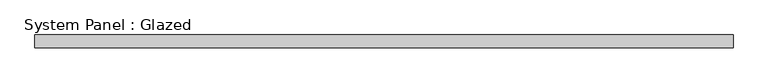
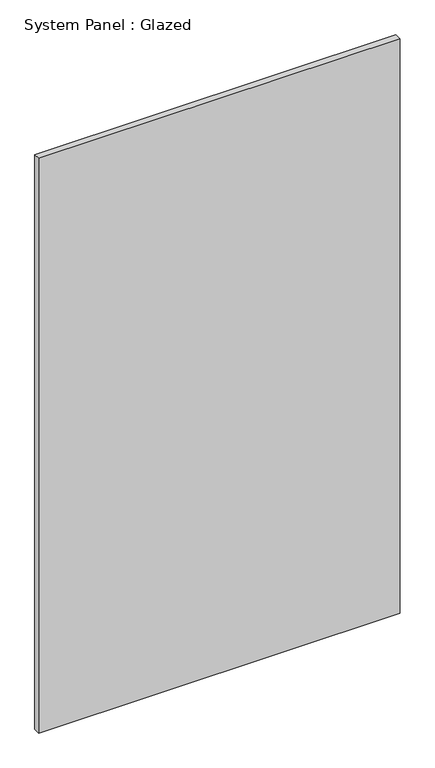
"""IFC4 building model written with IfcOpenShell, lengths in millimetres: plate geometry, System Panel : Glazed."""

from ifc_helpers import new_model, si_unit, origin, origin_with_axes, place, context, project, spatial, polyline, outline, extrude, source, transform, mapped, element, save


def system_panel_glazed_99e3e085(model_context):
    return source(origin(), model_context, "Body", "SweptSolid", [
        extrude(outline(polyline([(691.5833335, -49.5), (-691.5833335, -49.5), (-691.5833335, -24.5), (691.5833335, -24.5), (691.5833335, -49.5)])), origin_with_axes(), (0.0, 0.0, 1.0), 2325.0),
    ])


if __name__ == "__main__":
    model = new_model("IFC4")
    model_context = context("Model", 3, world=origin())
    ifc_project = project(units=[si_unit("LENGTHUNIT", "METRE", prefix="MILLI")], contexts=[model_context])
    site = spatial("IfcSite", under=ifc_project)
    building = spatial("IfcBuilding", under=site)
    placement = place(None, origin())
    system_panel_glazed_shape = system_panel_glazed_99e3e085(model_context)
    element("IfcPlate", 1, ObjectType="System Panel : Glazed", at=placement, inside=building, context=model_context, shape_type="MappedRepresentation", body=[
        mapped(system_panel_glazed_shape, transform((0.0, 0.0, 0.0), x_axis=(1.0, 0.0, 0.0), y_axis=(0.0, 1.0, 0.0), z_axis=(0.0, 0.0, 1.0))),
    ])
    save(model, "model.ifc")
